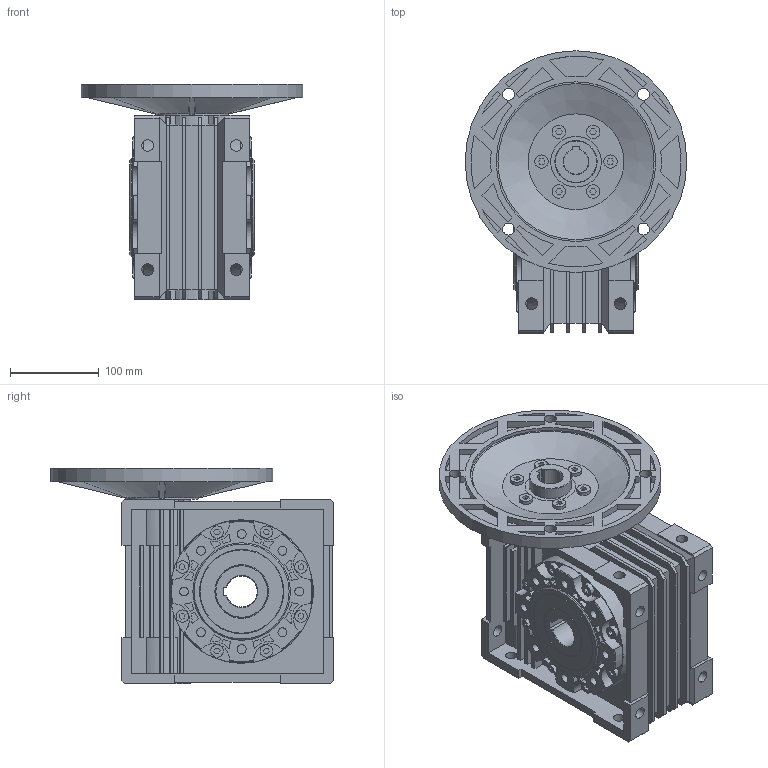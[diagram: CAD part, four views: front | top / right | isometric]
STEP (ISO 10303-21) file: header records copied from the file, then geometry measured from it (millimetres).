
FILE_DESCRIPTION(/* description */ (''),/* implementation_level */ '2;1');
FILE_NAME(/* name */ 'Z:\동력 3D 파일\PCMRV090_100-112B5_3D.stp',/* time_stamp */ '2021-12-01T17:34:04+09:00',/* author */ ('jaebok'),/* organization */ (''),/* preprocessor_version */ 'ST-DEVELOPER v18.1',/* originating_system */ 'Autodesk Inventor 2022',/* authorisation */ '');
FILE_SCHEMA (('AUTOMOTIVE_DESIGN { 1 0 10303 214 3 1 1 }'));
Length unit declared in the file: millimetre
Products named in the file (1): 부품55
Bounding box: 250 x 318 x 243 mm (x, y, z)
Volume: 5423108.4 mm3; surface area: 522968.5 mm2
Topology: 1 solids, 6 shells, 1006 faces, 2545 edges, 1683 vertices
Faces by surface type: plane 654, cylinder 319, cone 33
Full cylindrical faces by diameter (mm): 4.239 x8, 10 x16, 13 x16, 13.5 x4, 14 x16, 15.084 x6, 47.6 x1, 55.525 x2, 56.525 x2, 57.12 x1, 59.5 x2, 81 x1, 95 x2, 110 x2, 161.6 x2, 180 x1, 250 x1
Entity records: 31559 total; most frequent: CARTESIAN_POINT 5491, DIRECTION 5233, ORIENTED_EDGE 5090, EDGE_CURVE 2545, LINE 1759, VECTOR 1759, AXIS2_PLACEMENT_3D 1737, VERTEX_POINT 1683
